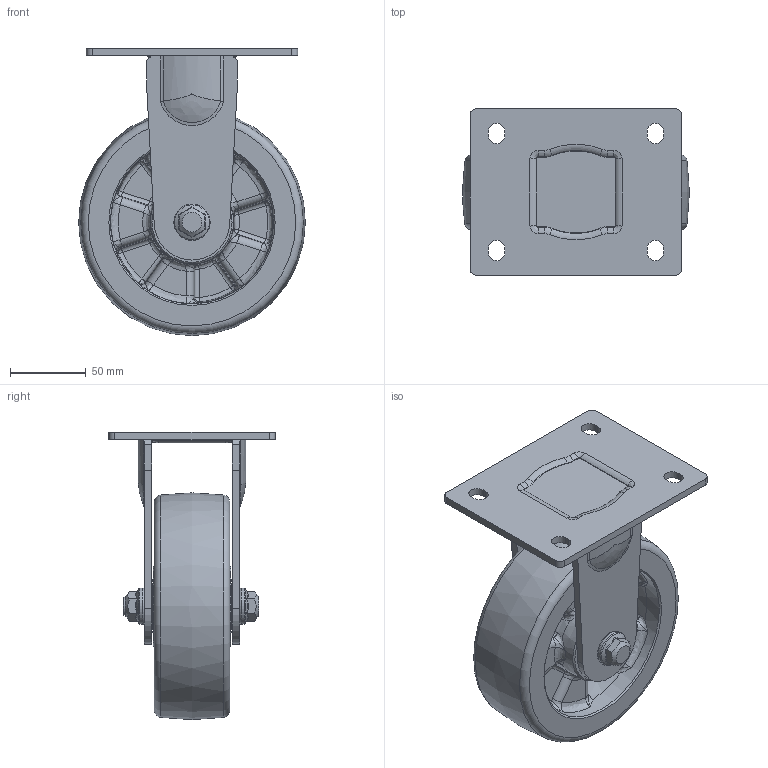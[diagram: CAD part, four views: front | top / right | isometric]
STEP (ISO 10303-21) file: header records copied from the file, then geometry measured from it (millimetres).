
FILE_DESCRIPTION((''),'2;1');
FILE_NAME('C:\Documents and Settings\Administrator\바탕 화면\3D STEP\PMW-SERIES\PMW-150\PMW-150-ARF.stp','2010-12-27T15:06:39',('Administrator'),(''),'Autodesk Inventor 2009','Autodesk Inventor 2009','');
FILE_SCHEMA(('AUTOMOTIVE_DESIGN { 1 0 10303 214 1 1 1 1 }'));
Length unit declared in the file: millimetre
Products named in the file (1): PMW-150-ARF
Bounding box: 149.98 x 110 x 190 mm (x, y, z)
Volume: 707330.4 mm3; surface area: 162915.3 mm2
Topology: 5 solids, 8 shells, 515 faces, 1232 edges, 744 vertices
Faces by surface type: bspline 230, plane 110, cylinder 101, cone 52, torus 22
Full cylindrical faces by diameter (mm): 12 x2, 15 x2, 15.2 x2, 21.5 x1, 24 x2, 30.5 x2, 35 x2, 35.2 x2
Entity records: 31427 total; most frequent: CARTESIAN_POINT 20741, ORIENTED_EDGE 2384, DIRECTION 1944, EDGE_CURVE 1192, AXIS2_PLACEMENT_3D 842, VERTEX_POINT 736, EDGE_LOOP 590, FACE_OUTER_BOUND 513
